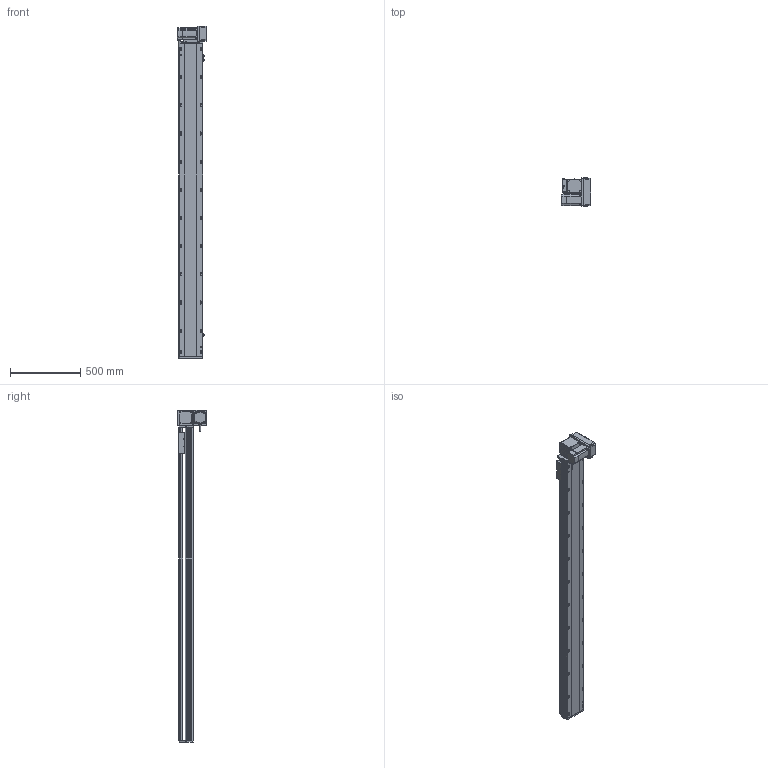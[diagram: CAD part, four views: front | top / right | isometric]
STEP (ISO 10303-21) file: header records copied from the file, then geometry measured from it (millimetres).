
FILE_DESCRIPTION (( 'STEP AP214' ), '1' );
FILE_NAME ('RTB17S-XX-1950-RM-M75-C4.STEP', '2025-12-12T02:12:18', ( '' ), ( '' ), 'SwSTEP 2.0', 'SolidWorks 2018', '' );
FILE_SCHEMA (( 'AUTOMOTIVE_DESIGN' ));
Length unit declared in the file: millimetre
Products named in the file (15): 750W萇儂^RTB17S-XX-XX-RM-M75-C4; RTB17S-L-014-T20-P75--々湍釱^RTB17S-RM-々湍釱蚾饜-750W_RTB17S-XX-XX-RM-M75-C4; RTB17S-L-007奻裔^RTB17S-XX-XX-RM-M75-C4; RTH13-BL-012覜茼え俋离^RTB17S-賑釱_RTB17S-XX-XX-RM-M75-C4; RTB17S-L-004-賑釱^RTB17S-賑釱_RTB17S-XX-XX-RM-M75-C4; RTB22S-GY-018P^RTB17S-RM-々湍釱蚾饜-750W_RTB17S-XX-XX-RM-M75-C4; RTB17S-RM-々湍釱蚾饜-750W^RTB17S-XX-XX-RM-M75-C4; RTB17S-XX-1950-RM-M75-C4; EE672^RTB17S-XX-XX-RM-M75-C4; RTB17S-L-001-耜醱啣^RTB17S-XX-XX-RM-M75-C4; RTB17-R-011菁釱^RTB17S-XX-XX-RM-M75-C4; RTB22S-GY-017P^RTB17S-RM-々湍釱蚾饜-750W_RTB17S-XX-XX-RM-M75-C4; RTB22S-GY-008-M75--萇儂啣^RTB17S-RM-々湍釱蚾饜-750W_RTB17S-XX-XX-RM-M75-C4; RTB22S-GY-005P^RTB17S-RM-々湍釱蚾饜-750W_RTB17S-XX-XX-RM-M75-C4; RTB17S-賑釱^RTB17S-XX-XX-RM-M75-C4
Assembly tree (17 placements, depth 3):
  RTB17S-XX-1950-RM-M75-C4
    RTB17-R-011菁釱^RTB17S-XX-XX-RM-M75-C4
    EE672^RTB17S-XX-XX-RM-M75-C4  x3
    RTB17S-L-001-耜醱啣^RTB17S-XX-XX-RM-M75-C4
    RTB17S-賑釱^RTB17S-XX-XX-RM-M75-C4
      RTB17S-L-004-賑釱^RTB17S-賑釱_RTB17S-XX-XX-RM-M75-C4
      RTH13-BL-012覜茼え俋离^RTB17S-賑釱_RTB17S-XX-XX-RM-M75-C4
    RTB17S-L-007奻裔^RTB17S-XX-XX-RM-M75-C4
    750W萇儂^RTB17S-XX-XX-RM-M75-C4
    RTB17S-RM-々湍釱蚾饜-750W^RTB17S-XX-XX-RM-M75-C4
      RTB17S-L-014-T20-P75--々湍釱^RTB17S-RM-々湍釱蚾饜-750W_RTB17S-XX-XX-RM-M75-C4
      RTB22S-GY-005P^RTB17S-RM-々湍釱蚾饜-750W_RTB17S-XX-XX-RM-M75-C4
      RTB22S-GY-017P^RTB17S-RM-々湍釱蚾饜-750W_RTB17S-XX-XX-RM-M75-C4  x2
      RTB22S-GY-008-M75--萇儂啣^RTB17S-RM-々湍釱蚾饜-750W_RTB17S-XX-XX-RM-M75-C4
      RTB22S-GY-018P^RTB17S-RM-々湍釱蚾饜-750W_RTB17S-XX-XX-RM-M75-C4
Bounding box: 207.4 x 200 x 2357.5 mm (x, y, z)
Volume: 18139740 mm3; surface area: 3237831.8 mm2
Topology: 17 solids, 17 shells, 2169 faces, 6052 edges, 3914 vertices
Faces by surface type: plane 980, cylinder 773, bspline 294, cone 110, sphere 8, torus 4
Entity records: 61942 total; most frequent: CARTESIAN_POINT 18316, ORIENTED_EDGE 8948, DIRECTION 8312, EDGE_CURVE 4474, AXIS2_PLACEMENT_3D 2934, VERTEX_POINT 2918, VECTOR 2444, LINE 2444
